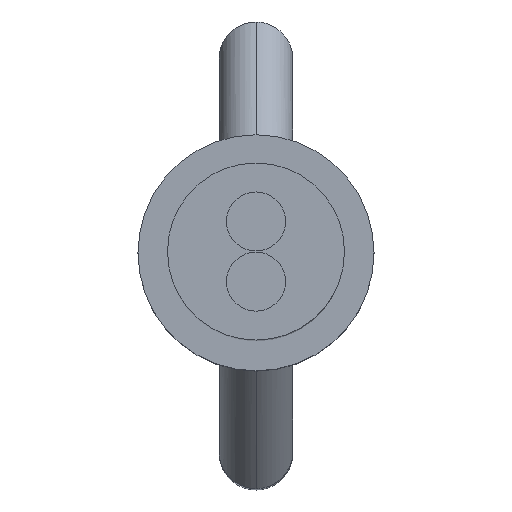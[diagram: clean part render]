
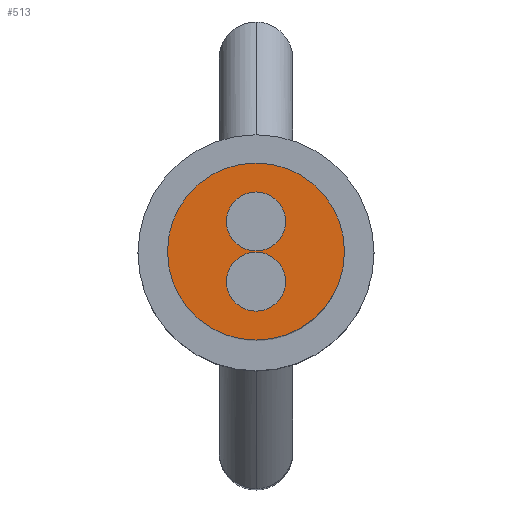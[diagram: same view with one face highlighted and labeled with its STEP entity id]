
A CAD part, top view. The second image highlights one B-rep face of the part: STEP entity #513.
In plain terms, the highlighted planar face has unit normal (0, 0, 1) as drawn and (-1, 0, 0) by its records, which use the part's own axes.
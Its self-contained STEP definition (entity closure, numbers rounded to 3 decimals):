
#48 = DIRECTION ( 'NONE',  ( 0., 0., -1. ) ) ;
#49 = DIRECTION ( 'NONE',  ( 1., 0., 0. ) ) ;
#50 = CARTESIAN_POINT ( 'NONE',  ( 0., 0., 0. ) ) ;
#51 = AXIS2_PLACEMENT_3D ( 'NONE', #50, #49, #48 ) ;
#52 = PLANE ( 'NONE',  #51 ) ;
#53 = FACE_BOUND ( 'NONE', #620, .T. ) ;
#54 = FACE_OUTER_BOUND ( 'NONE', #619, .T. ) ;
#55 = FACE_BOUND ( 'NONE', #618, .T. ) ;
#60 = DIRECTION ( 'NONE',  ( 0., 0., -1. ) ) ;
#61 = DIRECTION ( 'NONE',  ( 1., 0., 0. ) ) ;
#62 = AXIS2_PLACEMENT_3D ( 'NONE', #68, #61, #60 ) ;
#63 = CIRCLE ( 'NONE', #62, 1.5 ) ;
#68 = CARTESIAN_POINT ( 'NONE',  ( 0., 0., 0. ) ) ;
#115 = DIRECTION ( 'NONE',  ( 0., 0., -1. ) ) ;
#116 = DIRECTION ( 'NONE',  ( 1., 0., 0. ) ) ;
#117 = CARTESIAN_POINT ( 'NONE',  ( 0., 0., 0. ) ) ;
#118 = AXIS2_PLACEMENT_3D ( 'NONE', #117, #116, #115 ) ;
#119 = CIRCLE ( 'NONE', #118, 1.5 ) ;
#120 = DIRECTION ( 'NONE',  ( 0., 0., -1. ) ) ;
#121 = DIRECTION ( 'NONE',  ( 1., 0., 0. ) ) ;
#122 = CARTESIAN_POINT ( 'NONE',  ( 0., 0.51, 0. ) ) ;
#123 = AXIS2_PLACEMENT_3D ( 'NONE', #122, #121, #120 ) ;
#124 = CIRCLE ( 'NONE', #123, 0.5 ) ;
#161 = AXIS2_PLACEMENT_3D ( 'NONE', #168, #167, #166 ) ;
#162 = CIRCLE ( 'NONE', #161, 0.5 ) ;
#164 = CARTESIAN_POINT ( 'NONE',  ( 0., 0., 1.5 ) ) ;
#166 = DIRECTION ( 'NONE',  ( 0., 0., -1. ) ) ;
#167 = DIRECTION ( 'NONE',  ( 1., 0., 0. ) ) ;
#168 = CARTESIAN_POINT ( 'NONE',  ( 0., -0.51, 0. ) ) ;
#379 = VERTEX_POINT ( 'NONE', #665 ) ;
#388 = EDGE_CURVE ( 'NONE', #389, #379, #648, .T. ) ;
#389 = VERTEX_POINT ( 'NONE', #626 ) ;
#400 = VERTEX_POINT ( 'NONE', #772 ) ;
#402 = EDGE_CURVE ( 'NONE', #403, #400, #771, .T. ) ;
#403 = VERTEX_POINT ( 'NONE', #766 ) ;
#454 = VERTEX_POINT ( 'NONE', #844 ) ;
#510 = EDGE_CURVE ( 'NONE', #454, #617, #63, .T. ) ;
#513 = ADVANCED_FACE ( 'NONE', ( #55, #54, #53 ), #52, .F. ) ;
#514 = ORIENTED_EDGE ( 'NONE', *, *, #402, .T. ) ;
#515 = ORIENTED_EDGE ( 'NONE', *, *, #516, .T. ) ;
#516 = EDGE_CURVE ( 'NONE', #400, #403, #124, .T. ) ;
#517 = ORIENTED_EDGE ( 'NONE', *, *, #518, .F. ) ;
#518 = EDGE_CURVE ( 'NONE', #617, #454, #119, .T. ) ;
#519 = ORIENTED_EDGE ( 'NONE', *, *, #510, .F. ) ;
#617 = VERTEX_POINT ( 'NONE', #164 ) ;
#618 = EDGE_LOOP ( 'NONE', ( #514, #515 ) ) ;
#619 = EDGE_LOOP ( 'NONE', ( #517, #519 ) ) ;
#620 = EDGE_LOOP ( 'NONE', ( #621, #622 ) ) ;
#621 = ORIENTED_EDGE ( 'NONE', *, *, #388, .T. ) ;
#622 = ORIENTED_EDGE ( 'NONE', *, *, #623, .T. ) ;
#623 = EDGE_CURVE ( 'NONE', #379, #389, #162, .T. ) ;
#626 = CARTESIAN_POINT ( 'NONE',  ( 0., -0.51, 0.5 ) ) ;
#644 = DIRECTION ( 'NONE',  ( 0., 0., -1. ) ) ;
#645 = DIRECTION ( 'NONE',  ( 1., 0., 0. ) ) ;
#646 = CARTESIAN_POINT ( 'NONE',  ( 0., -0.51, 0. ) ) ;
#647 = AXIS2_PLACEMENT_3D ( 'NONE', #646, #645, #644 ) ;
#648 = CIRCLE ( 'NONE', #647, 0.5 ) ;
#665 = CARTESIAN_POINT ( 'NONE',  ( 0., -0.51, -0.5 ) ) ;
#766 = CARTESIAN_POINT ( 'NONE',  ( 0., 0.51, 0.5 ) ) ;
#767 = DIRECTION ( 'NONE',  ( 0., 0., -1. ) ) ;
#768 = DIRECTION ( 'NONE',  ( 1., 0., 0. ) ) ;
#769 = CARTESIAN_POINT ( 'NONE',  ( 0., 0.51, 0. ) ) ;
#770 = AXIS2_PLACEMENT_3D ( 'NONE', #769, #768, #767 ) ;
#771 = CIRCLE ( 'NONE', #770, 0.5 ) ;
#772 = CARTESIAN_POINT ( 'NONE',  ( 0., 0.51, -0.5 ) ) ;
#844 = CARTESIAN_POINT ( 'NONE',  ( 0., 0., -1.5 ) ) ;
